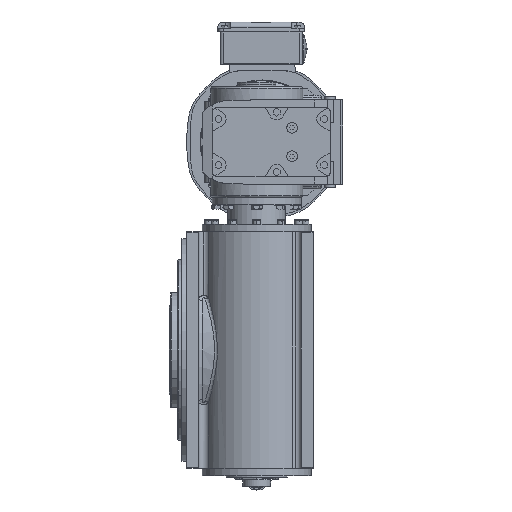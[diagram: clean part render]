
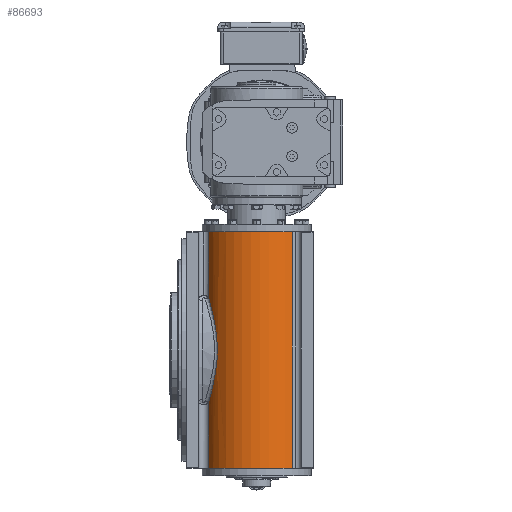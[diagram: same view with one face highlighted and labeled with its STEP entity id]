
A CAD part, left-side view. The second image highlights one B-rep face of the part: STEP entity #86693.
In plain terms, the highlighted cylindrical face has radius 71 mm (diameter 142 mm), a partial arc.
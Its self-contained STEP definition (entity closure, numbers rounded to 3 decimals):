
#209 = ORIENTED_EDGE ( 'NONE', *, *, #20724, .F. ) ;
#1632 = DIRECTION ( 'NONE',  ( 0., 0., 1. ) ) ;
#2055 = DIRECTION ( 'NONE',  ( 0., 0., 1. ) ) ;
#2223 = CARTESIAN_POINT ( 'NONE',  ( -95., 74., -154. ) ) ;
#3855 = CARTESIAN_POINT ( 'NONE',  ( -143.692, 125.681, -12.164 ) ) ;
#4338 = CARTESIAN_POINT ( 'NONE',  ( -143.351, 125.993, 14.878 ) ) ;
#4496 = DIRECTION ( 'NONE',  ( 0., 0., 1. ) ) ;
#5829 = VERTEX_POINT ( 'NONE', #26833 ) ;
#6404 = EDGE_CURVE ( 'NONE', #47339, #81444, #38119, .T. ) ;
#8267 = CARTESIAN_POINT ( 'NONE',  ( -136.889, 131.329, 46.942 ) ) ;
#9431 = ORIENTED_EDGE ( 'NONE', *, *, #42853, .F. ) ;
#9718 = CIRCLE ( 'NONE', #94071, 71. ) ;
#11252 = LINE ( 'NONE', #56851, #71912 ) ;
#11274 = CARTESIAN_POINT ( 'NONE',  ( -95., 74., 154. ) ) ;
#11442 = VERTEX_POINT ( 'NONE', #61473 ) ;
#11559 = CARTESIAN_POINT ( 'NONE',  ( -143.2, 126.132, 16.387 ) ) ;
#12048 = CARTESIAN_POINT ( 'NONE',  ( -142.826, 126.476, -19.641 ) ) ;
#12720 = CIRCLE ( 'NONE', #55697, 71. ) ;
#13127 = CARTESIAN_POINT ( 'NONE',  ( -148.721, 27.577, -154. ) ) ;
#14520 = CARTESIAN_POINT ( 'NONE',  ( -128.109, 136.808, -68.859 ) ) ;
#16325 = DIRECTION ( 'NONE',  ( 0., 0., -1. ) ) ;
#17182 = DIRECTION ( 'NONE',  ( 1., 0., 0. ) ) ;
#17529 = CARTESIAN_POINT ( 'NONE',  ( -95., 74., -154. ) ) ;
#17935 = CARTESIAN_POINT ( 'NONE',  ( -148.721, 27.577, -154. ) ) ;
#18794 = CARTESIAN_POINT ( 'NONE',  ( -142.199, 127.041, -24.119 ) ) ;
#20380 = DIRECTION ( 'NONE',  ( 0., 0., 1. ) ) ;
#20724 = EDGE_CURVE ( 'NONE', #11442, #5829, #11252, .T. ) ;
#22551 = VECTOR ( 'NONE', #16325, 1000. ) ;
#24146 = CARTESIAN_POINT ( 'NONE',  ( -133.018, 134.012, 58.125 ) ) ;
#24617 = CARTESIAN_POINT ( 'NONE',  ( -141.327, 127.831, 29.758 ) ) ;
#24915 = AXIS2_PLACEMENT_3D ( 'NONE', #2223, #37828, #17182 ) ;
#26031 = CARTESIAN_POINT ( 'NONE',  ( -128.109, 136.808, -68.859 ) ) ;
#26121 = VERTEX_POINT ( 'NONE', #14520 ) ;
#26833 = CARTESIAN_POINT ( 'NONE',  ( -128.109, 136.808, 154. ) ) ;
#27006 = CARTESIAN_POINT ( 'NONE',  ( -144.04, 125.343, -6.17 ) ) ;
#28339 = CYLINDRICAL_SURFACE ( 'NONE', #24915, 71. ) ;
#31804 = EDGE_LOOP ( 'NONE', ( #209, #76013, #58290, #83535, #46891, #9431 ) ) ;
#31812 = CARTESIAN_POINT ( 'NONE',  ( -139.32, 129.475, 38.415 ) ) ;
#33359 = EDGE_CURVE ( 'NONE', #11442, #26121, #62177, .T. ) ;
#33389 = DIRECTION ( 'NONE',  ( 1., 0., 0. ) ) ;
#34271 = EDGE_CURVE ( 'NONE', #26121, #35061, #74844, .T. ) ;
#35061 = VERTEX_POINT ( 'NONE', #72002 ) ;
#37458 = CARTESIAN_POINT ( 'NONE',  ( -128.109, 136.808, 500000. ) ) ;
#37828 = DIRECTION ( 'NONE',  ( 0., 0., 1. ) ) ;
#38119 = LINE ( 'NONE', #17935, #62599 ) ;
#38990 = CARTESIAN_POINT ( 'NONE',  ( -135.977, 131.984, 49.755 ) ) ;
#40869 = CARTESIAN_POINT ( 'NONE',  ( -143.967, 125.413, 5.846 ) ) ;
#42853 = EDGE_CURVE ( 'NONE', #5829, #81444, #12720, .T. ) ;
#43132 = FACE_OUTER_BOUND ( 'NONE', #31804, .T. ) ;
#43590 = CARTESIAN_POINT ( 'NONE',  ( -148.721, 27.577, 154. ) ) ;
#46891 = ORIENTED_EDGE ( 'NONE', *, *, #6404, .T. ) ;
#47339 = VERTEX_POINT ( 'NONE', #13127 ) ;
#48023 = CARTESIAN_POINT ( 'NONE',  ( -132.999, 134.023, -58.167 ) ) ;
#53387 = CARTESIAN_POINT ( 'NONE',  ( -135.5, 132.319, 51.157 ) ) ;
#55697 = AXIS2_PLACEMENT_3D ( 'NONE', #11274, #4496, #33389 ) ;
#56225 = CARTESIAN_POINT ( 'NONE',  ( -142.631, 126.653, -21.138 ) ) ;
#56851 = CARTESIAN_POINT ( 'NONE',  ( -128.109, 136.808, -500000. ) ) ;
#58290 = ORIENTED_EDGE ( 'NONE', *, *, #34271, .T. ) ;
#60234 = DIRECTION ( 'NONE',  ( 1., 0., 0. ) ) ;
#60570 = CARTESIAN_POINT ( 'NONE',  ( -128.109, 136.808, 68.859 ) ) ;
#61473 = CARTESIAN_POINT ( 'NONE',  ( -128.109, 136.808, 68.859 ) ) ;
#62177 = B_SPLINE_CURVE_WITH_KNOTS ( 'NONE', 3,
 ( #60570, #89805, #24146, #53387, #38990, #8267, #68190, #66329, #31812, #24617, #85439, #11559, #4338, #84509, #76382, #40869, #77765, #27006, #3855, #12048, #56225, #18794, #62949, #69598, #90756, #84975, #91224, #48023, #92160, #26031 ),
 .UNSPECIFIED., .F., .F.,
 ( 4, 2, 2, 2, 2, 2, 2, 2, 2, 2, 2, 2, 2, 2, 4 ),
 ( 0., 0.018, 0.023, 0.027, 0.036, 0.055, 0.059, 0.064, 0.073, 0.091, 0.095, 0.1, 0.109, 0.127, 0.145 ),
 .UNSPECIFIED. ) ;
#62599 = VECTOR ( 'NONE', #2055, 1000. ) ;
#62949 = CARTESIAN_POINT ( 'NONE',  ( -141.962, 127.251, -25.6 ) ) ;
#66329 = CARTESIAN_POINT ( 'NONE',  ( -138.57, 130.069, 41.275 ) ) ;
#68190 = CARTESIAN_POINT ( 'NONE',  ( -137.325, 131.008, 45.529 ) ) ;
#69598 = CARTESIAN_POINT ( 'NONE',  ( -141.192, 127.924, -30.015 ) ) ;
#71912 = VECTOR ( 'NONE', #20380, 1000. ) ;
#72002 = CARTESIAN_POINT ( 'NONE',  ( -128.109, 136.808, -154. ) ) ;
#74844 = LINE ( 'NONE', #37458, #22551 ) ;
#76013 = ORIENTED_EDGE ( 'NONE', *, *, #33359, .T. ) ;
#76382 = CARTESIAN_POINT ( 'NONE',  ( -143.713, 125.653, 10.36 ) ) ;
#77765 = CARTESIAN_POINT ( 'NONE',  ( -144.049, 125.334, 2.839 ) ) ;
#81444 = VERTEX_POINT ( 'NONE', #43590 ) ;
#83535 = ORIENTED_EDGE ( 'NONE', *, *, #92096, .T. ) ;
#84509 = CARTESIAN_POINT ( 'NONE',  ( -143.607, 125.753, 11.865 ) ) ;
#84975 = CARTESIAN_POINT ( 'NONE',  ( -138.584, 130.076, -41.542 ) ) ;
#85439 = CARTESIAN_POINT ( 'NONE',  ( -142.345, 126.918, 23.884 ) ) ;
#86693 = ADVANCED_FACE ( 'NONE', ( #43132 ), #28339, .T. ) ;
#89805 = CARTESIAN_POINT ( 'NONE',  ( -130.725, 135.429, 63.555 ) ) ;
#90756 = CARTESIAN_POINT ( 'NONE',  ( -140.598, 128.429, -32.922 ) ) ;
#91224 = CARTESIAN_POINT ( 'NONE',  ( -136.93, 131.346, -47.157 ) ) ;
#92096 = EDGE_CURVE ( 'NONE', #35061, #47339, #9718, .T. ) ;
#92160 = CARTESIAN_POINT ( 'NONE',  ( -130.722, 135.43, -63.561 ) ) ;
#94071 = AXIS2_PLACEMENT_3D ( 'NONE', #17529, #1632, #60234 ) ;
